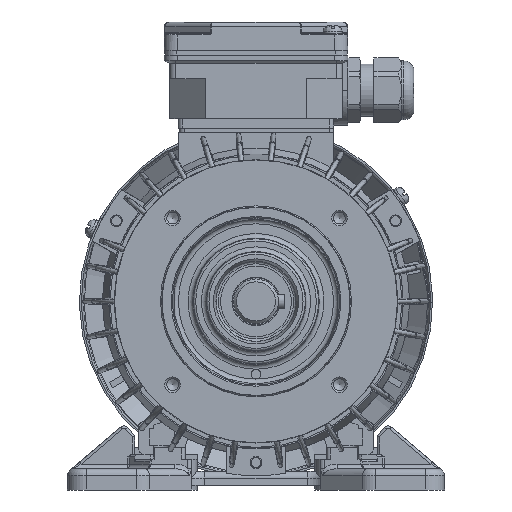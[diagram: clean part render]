
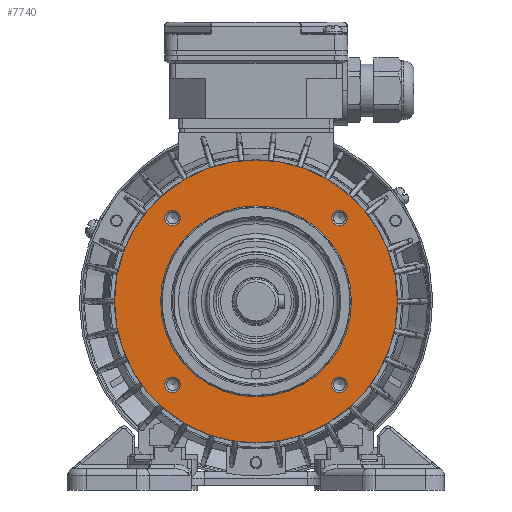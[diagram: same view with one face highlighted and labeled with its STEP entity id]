
A CAD part, left-side view. The second image highlights one B-rep face of the part: STEP entity #7740.
In plain terms, the highlighted planar face has unit normal (-1, 0, 0) as drawn and (0, -1, 0) by its records, which use the part's own axes.
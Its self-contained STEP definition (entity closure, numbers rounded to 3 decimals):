
#7740 = ADVANCED_FACE( '', ( #15903, #15904, #15905, #15906, #15907, #15908 ), #15909, .T. );
#15903 = FACE_BOUND( '', #42363, .T. );
#15904 = FACE_BOUND( '', #42364, .T. );
#15905 = FACE_BOUND( '', #42365, .T. );
#15906 = FACE_BOUND( '', #42366, .T. );
#15907 = FACE_BOUND( '', #42367, .T. );
#15908 = FACE_OUTER_BOUND( '', #42368, .T. );
#15909 = PLANE( '', #42369 );
#42363 = EDGE_LOOP( '', ( #68936 ) );
#42364 = EDGE_LOOP( '', ( #68937 ) );
#42365 = EDGE_LOOP( '', ( #68938 ) );
#42366 = EDGE_LOOP( '', ( #68939 ) );
#42367 = EDGE_LOOP( '', ( #68940 ) );
#42368 = EDGE_LOOP( '', ( #68941 ) );
#42369 = AXIS2_PLACEMENT_3D( '', #68942, #68943, #68944 );
#68936 = ORIENTED_EDGE( '', *, *, #81044, .T. );
#68937 = ORIENTED_EDGE( '', *, *, #74660, .T. );
#68938 = ORIENTED_EDGE( '', *, *, #77275, .T. );
#68939 = ORIENTED_EDGE( '', *, *, #81421, .T. );
#68940 = ORIENTED_EDGE( '', *, *, #81434, .T. );
#68941 = ORIENTED_EDGE( '', *, *, #82025, .T. );
#68942 = CARTESIAN_POINT( '', ( 0., 3., 40. ) );
#68943 = DIRECTION( '', ( 0., -1., 0. ) );
#68944 = DIRECTION( '', ( 0., 0., -1. ) );
#74660 = EDGE_CURVE( '', #86885, #86885, #86886, .F. );
#77275 = EDGE_CURVE( '', #91160, #91160, #91161, .F. );
#81044 = EDGE_CURVE( '', #96410, #96410, #96411, .F. );
#81421 = EDGE_CURVE( '', #96845, #96845, #96846, .F. );
#81434 = EDGE_CURVE( '', #96860, #96860, #96861, .F. );
#82025 = EDGE_CURVE( '', #97512, #97512, #97513, .T. );
#86885 = VERTEX_POINT( '', #105716 );
#86886 = CIRCLE( '', #105717, 3.3 );
#91160 = VERTEX_POINT( '', #116392 );
#91161 = CIRCLE( '', #116393, 3.3 );
#96410 = VERTEX_POINT( '', #129681 );
#96411 = CIRCLE( '', #129682, 3.3 );
#96845 = VERTEX_POINT( '', #131282 );
#96846 = CIRCLE( '', #131283, 3.3 );
#96860 = VERTEX_POINT( '', #131309 );
#96861 = CIRCLE( '', #131310, 40.5 );
#97512 = VERTEX_POINT( '', #133369 );
#97513 = CIRCLE( '', #133370, 60. );
#105716 = CARTESIAN_POINT( '', ( 35.355, 3., -38.655 ) );
#105717 = AXIS2_PLACEMENT_3D( '', #138050, #138051, #138052 );
#116392 = CARTESIAN_POINT( '', ( 35.355, 3., 32.055 ) );
#116393 = AXIS2_PLACEMENT_3D( '', #141112, #141113, #141114 );
#129681 = CARTESIAN_POINT( '', ( -35.355, 3., -38.655 ) );
#129682 = AXIS2_PLACEMENT_3D( '', #145706, #145707, #145708 );
#131282 = CARTESIAN_POINT( '', ( -35.355, 3., 32.055 ) );
#131283 = AXIS2_PLACEMENT_3D( '', #145976, #145977, #145978 );
#131309 = CARTESIAN_POINT( '', ( 0., 3., -40.5 ) );
#131310 = AXIS2_PLACEMENT_3D( '', #145984, #145985, #145986 );
#133369 = CARTESIAN_POINT( '', ( 0., 3., -60. ) );
#133370 = AXIS2_PLACEMENT_3D( '', #146336, #146337, #146338 );
#138050 = CARTESIAN_POINT( '', ( 35.355, 3., -35.355 ) );
#138051 = DIRECTION( '', ( 0., -1., 0. ) );
#138052 = DIRECTION( '', ( 0., 0., -1. ) );
#141112 = CARTESIAN_POINT( '', ( 35.355, 3., 35.355 ) );
#141113 = DIRECTION( '', ( 0., -1., 0. ) );
#141114 = DIRECTION( '', ( 0., 0., -1. ) );
#145706 = CARTESIAN_POINT( '', ( -35.355, 3., -35.355 ) );
#145707 = DIRECTION( '', ( 0., -1., 0. ) );
#145708 = DIRECTION( '', ( 0., 0., -1. ) );
#145976 = CARTESIAN_POINT( '', ( -35.355, 3., 35.355 ) );
#145977 = DIRECTION( '', ( 0., -1., 0. ) );
#145978 = DIRECTION( '', ( 0., 0., -1. ) );
#145984 = CARTESIAN_POINT( '', ( 0., 3., 0. ) );
#145985 = DIRECTION( '', ( 0., -1., 0. ) );
#145986 = DIRECTION( '', ( 0., 0., -1. ) );
#146336 = CARTESIAN_POINT( '', ( 0., 3., 0. ) );
#146337 = DIRECTION( '', ( 0., -1., 0. ) );
#146338 = DIRECTION( '', ( 0., 0., -1. ) );
